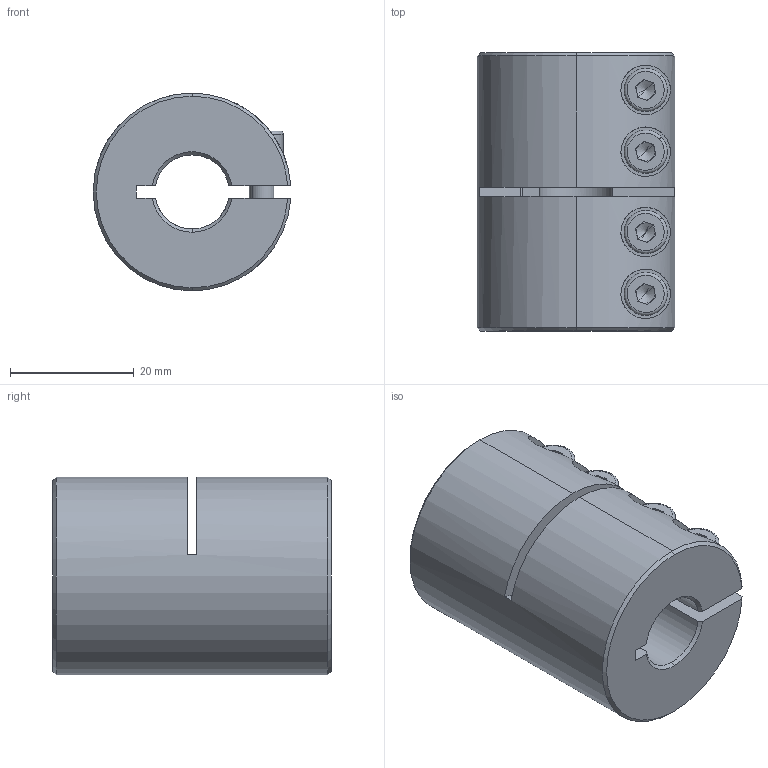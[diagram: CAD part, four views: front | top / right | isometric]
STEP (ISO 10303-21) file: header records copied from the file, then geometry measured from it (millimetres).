
FILE_DESCRIPTION (( 'STEP AP214' ), '1' );
FILE_NAME ('LL-B-D32L45-12-12½¨Ä£.STEP', '2022-07-21T07:10:53', ( '' ), ( '' ), 'SwSTEP 2.0', 'SolidWorks 2022', '' );
FILE_SCHEMA (( 'AUTOMOTIVE_DESIGN' ));
Length unit declared in the file: millimetre
Products named in the file (1): LL-B-D32L45-12-12膘耀
Bounding box: 31.97 x 45 x 32 mm (x, y, z)
Volume: 28714.6 mm3; surface area: 10751.7 mm2
Topology: 1 solids, 1 shells, 188 faces, 477 edges, 299 vertices
Faces by surface type: plane 86, cylinder 74, cone 20, torus 8
Entity records: 6186 total; most frequent: CARTESIAN_POINT 1553, DIRECTION 1006, ORIENTED_EDGE 938, EDGE_CURVE 469, AXIS2_PLACEMENT_3D 392, VERTEX_POINT 299, VECTOR 222, LINE 222
